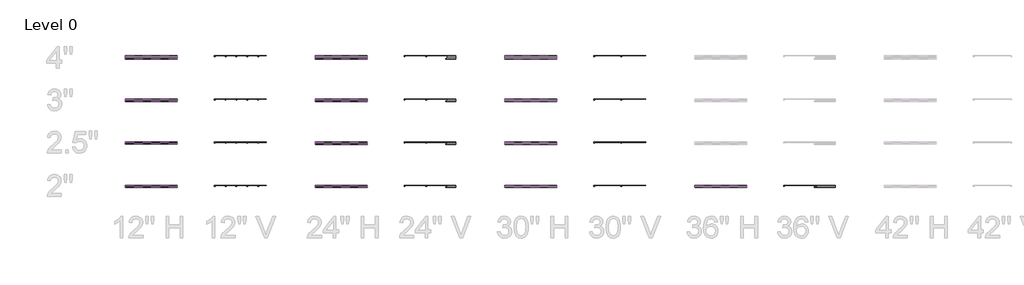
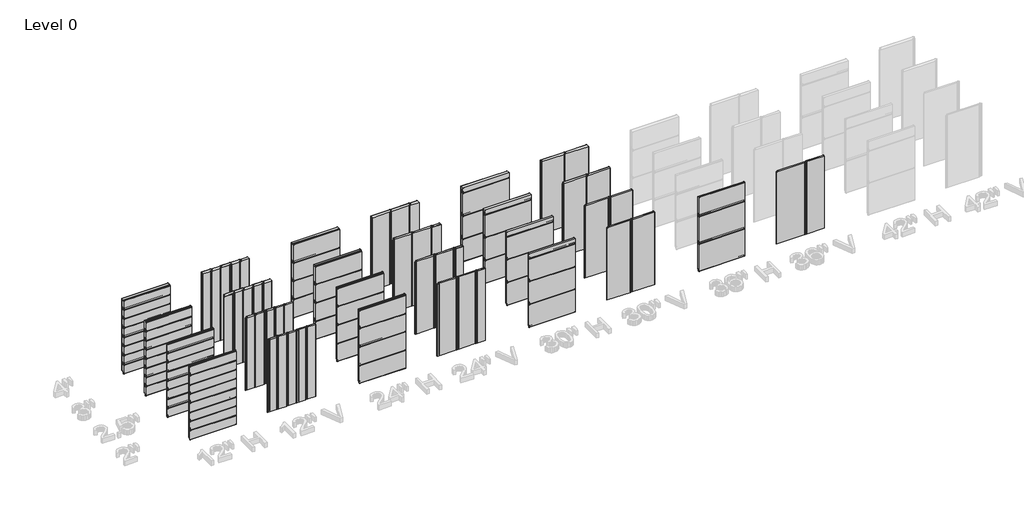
# One storey, part 1 of 5: 109 plates.
"""IFC4 building model written with IfcOpenShell, lengths in millimetres."""

from ifc_helpers import new_model, si_unit, origin, place, context, project, spatial, transform, mapped, element, save
from components import plate_6fed119e, plate_89e84f46, plate_e706f19b, plate_4092c8f2, plate_8f768d0c, plate_a425dd43, plate_01add622, plate_84317ace, plate_703a105f, plate_3ba889b1, plate_5a420305, plate_5605c388, plate_ecee1f56, plate_63ff22c1, plate_52fbea68, plate_90fd1389, plate_66907302, plate_fa82ef35, plate_ab7d0304, plate_7c34b83b, plate_cdfc6812, plate_cf595729, plate_7649aaa1, plate_0d08f7c9, plate_ffddabbd, plate_2691a210, plate_176f2685, plate_24272428, plate_8a14e245, plate_b0db7024, plate_51471944, plate_6d69c0c8, plate_39f8857a, plate_e788a3fa, plate_2abe45d6, plate_93284a91, plate_cbbe2ff7, plate_451096ce, plate_f979c6ee, plate_146f869e, plate_2396645b, plate_240653d1, plate_9375496b, plate_7b326403, plate_11812fda, plate_1d9811eb, plate_a71e47d3, plate_925c1c1f

model = new_model("IFC4")

# Units and contexts
model_context = context("Model", 3, world=origin())
ifc_project = project(units=[si_unit("LENGTHUNIT", "METRE", prefix="MILLI")], contexts=[model_context])

# Site, building, storey
site = spatial("IfcSite", under=ifc_project)
building = spatial("IfcBuilding", under=site)
storey = spatial("IfcBuildingStorey", under=building, Name="Level 0", Elevation=0.0)

# Plates
placement = place(None, origin())
plate_shape = plate_6fed119e(model_context)
element("IfcPlate", 1, ObjectType="KIP-36-DWHR-R19-CP-Hz-F : Hz 2\"", at=placement, inside=storey, context=model_context, shape_type="MappedRepresentation", body=[
    mapped(plate_shape, transform((-13782.7250935, 10881.8207172, 0.0), x_axis=(1.0, 0.0, 0.0), y_axis=(0.0, 1.0, 0.0), z_axis=(0.0, 0.0, 1.0))),
])
element("IfcPlate", 2, ObjectType="KIP-36-DWHR-R19-CP-Hz-F : Hz 2\"", at=placement, inside=storey, context=model_context, shape_type="MappedRepresentation", body=[
    mapped(plate_shape, transform((-13782.7250935, 10881.8207172, 914.4), x_axis=(1.0, 0.0, 0.0), y_axis=(0.0, 1.0, 0.0), z_axis=(0.0, 0.0, 1.0))),
])
plate_2_shape = plate_89e84f46(model_context)
element("IfcPlate", 3, ObjectType="KIP-36-DWHR-R19-CP-Hz-F : Hz 2\"", at=placement, inside=storey, context=model_context, shape_type="MappedRepresentation", body=[
    mapped(plate_2_shape, transform((-13782.7250935, 10881.8207172, 1828.8), x_axis=(1.0, 0.0, 0.0), y_axis=(0.0, 1.0, 0.0), z_axis=(0.0, 0.0, 1.0))),
])
plate_3_shape = plate_e706f19b(model_context)
element("IfcPlate", 4, ObjectType="KIP-30-DWHR-R19-CP-Hz-F : Hz 2\"", at=placement, inside=storey, context=model_context, shape_type="MappedRepresentation", body=[
    mapped(plate_3_shape, transform((-19116.7250935, 10881.8207172, 0.0), x_axis=(1.0, 0.0, 0.0), y_axis=(0.0, 1.0, 0.0), z_axis=(0.0, 0.0, 1.0))),
])
element("IfcPlate", 5, ObjectType="KIP-30-DWHR-R19-CP-Hz-F : Hz 2\"", at=placement, inside=storey, context=model_context, shape_type="MappedRepresentation", body=[
    mapped(plate_3_shape, transform((-19116.7250935, 10881.8207172, 762.0), x_axis=(1.0, 0.0, 0.0), y_axis=(0.0, 1.0, 0.0), z_axis=(0.0, 0.0, 1.0))),
])
element("IfcPlate", 6, ObjectType="KIP-30-DWHR-R19-CP-Hz-F : Hz 2\"", at=placement, inside=storey, context=model_context, shape_type="MappedRepresentation", body=[
    mapped(plate_3_shape, transform((-19116.7250935, 10881.8207172, 1524.0), x_axis=(1.0, 0.0, 0.0), y_axis=(0.0, 1.0, 0.0), z_axis=(0.0, 0.0, 1.0))),
])
plate_4_shape = plate_4092c8f2(model_context)
element("IfcPlate", 7, ObjectType="KIP-30-DWHR-R19-CP-Hz-F : Hz 2\"", at=placement, inside=storey, context=model_context, shape_type="MappedRepresentation", body=[
    mapped(plate_4_shape, transform((-19116.7250935, 10881.8207172, 2286.0), x_axis=(1.0, 0.0, 0.0), y_axis=(0.0, 1.0, 0.0), z_axis=(0.0, 0.0, 1.0))),
])
plate_5_shape = plate_8f768d0c(model_context)
element("IfcPlate", 8, ObjectType="KIP-24-DWHR-R19-CP-Hz-F : Hz 2\"", at=placement, inside=storey, context=model_context, shape_type="MappedRepresentation", body=[
    mapped(plate_5_shape, transform((-24450.7250935, 10881.8207172, 0.0), x_axis=(1.0, 0.0, 0.0), y_axis=(0.0, 1.0, 0.0), z_axis=(0.0, 0.0, 1.0))),
])
element("IfcPlate", 9, ObjectType="KIP-24-DWHR-R19-CP-Hz-F : Hz 2\"", at=placement, inside=storey, context=model_context, shape_type="MappedRepresentation", body=[
    mapped(plate_5_shape, transform((-24450.7250935, 10881.8207172, 609.6), x_axis=(1.0, 0.0, 0.0), y_axis=(0.0, 1.0, 0.0), z_axis=(0.0, 0.0, 1.0))),
])
element("IfcPlate", 10, ObjectType="KIP-24-DWHR-R19-CP-Hz-F : Hz 2\"", at=placement, inside=storey, context=model_context, shape_type="MappedRepresentation", body=[
    mapped(plate_5_shape, transform((-24450.7250935, 10881.8207172, 1219.2), x_axis=(1.0, 0.0, 0.0), y_axis=(0.0, 1.0, 0.0), z_axis=(0.0, 0.0, 1.0))),
])
plate_6_shape = plate_a425dd43(model_context)
element("IfcPlate", 11, ObjectType="KIP-24-DWHR-R19-CP-Hz-F : Hz 2\"", at=placement, inside=storey, context=model_context, shape_type="MappedRepresentation", body=[
    mapped(plate_6_shape, transform((-24450.7250935, 10881.8207172, 1828.8), x_axis=(1.0, 0.0, 0.0), y_axis=(0.0, 1.0, 0.0), z_axis=(0.0, 0.0, 1.0))),
])
plate_7_shape = plate_01add622(model_context)
element("IfcPlate", 12, ObjectType="KIP-12-DWHR-R19-CP-Hz-F : Hz 2\"", at=placement, inside=storey, context=model_context, shape_type="MappedRepresentation", body=[
    mapped(plate_7_shape, transform((-29784.7250935, 10881.8207172, 0.0), x_axis=(1.0, 0.0, 0.0), y_axis=(0.0, 1.0, 0.0), z_axis=(0.0, 0.0, 1.0))),
])
element("IfcPlate", 13, ObjectType="KIP-12-DWHR-R19-CP-Hz-F : Hz 2\"", at=placement, inside=storey, context=model_context, shape_type="MappedRepresentation", body=[
    mapped(plate_7_shape, transform((-29784.7250935, 10881.8207172, 304.8), x_axis=(1.0, 0.0, 0.0), y_axis=(0.0, 1.0, 0.0), z_axis=(0.0, 0.0, 1.0))),
])
element("IfcPlate", 14, ObjectType="KIP-12-DWHR-R19-CP-Hz-F : Hz 2\"", at=placement, inside=storey, context=model_context, shape_type="MappedRepresentation", body=[
    mapped(plate_7_shape, transform((-29784.7250935, 10881.8207172, 609.6), x_axis=(1.0, 0.0, 0.0), y_axis=(0.0, 1.0, 0.0), z_axis=(0.0, 0.0, 1.0))),
])
element("IfcPlate", 15, ObjectType="KIP-12-DWHR-R19-CP-Hz-F : Hz 2\"", at=placement, inside=storey, context=model_context, shape_type="MappedRepresentation", body=[
    mapped(plate_7_shape, transform((-29784.7250935, 10881.8207172, 914.4), x_axis=(1.0, 0.0, 0.0), y_axis=(0.0, 1.0, 0.0), z_axis=(0.0, 0.0, 1.0))),
])
element("IfcPlate", 16, ObjectType="KIP-12-DWHR-R19-CP-Hz-F : Hz 2\"", at=placement, inside=storey, context=model_context, shape_type="MappedRepresentation", body=[
    mapped(plate_7_shape, transform((-29784.7250935, 10881.8207172, 1219.2), x_axis=(1.0, 0.0, 0.0), y_axis=(0.0, 1.0, 0.0), z_axis=(0.0, 0.0, 1.0))),
])
element("IfcPlate", 17, ObjectType="KIP-12-DWHR-R19-CP-Hz-F : Hz 2\"", at=placement, inside=storey, context=model_context, shape_type="MappedRepresentation", body=[
    mapped(plate_7_shape, transform((-29784.7250935, 10881.8207172, 1524.0), x_axis=(1.0, 0.0, 0.0), y_axis=(0.0, 1.0, 0.0), z_axis=(0.0, 0.0, 1.0))),
])
element("IfcPlate", 18, ObjectType="KIP-12-DWHR-R19-CP-Hz-F : Hz 2\"", at=placement, inside=storey, context=model_context, shape_type="MappedRepresentation", body=[
    mapped(plate_7_shape, transform((-29784.7250935, 10881.8207172, 1828.8), x_axis=(1.0, 0.0, 0.0), y_axis=(0.0, 1.0, 0.0), z_axis=(0.0, 0.0, 1.0))),
])
plate_8_shape = plate_84317ace(model_context)
element("IfcPlate", 19, ObjectType="KIP-12-DWHR-R19-CP-Hz-F : Hz 2\"", at=placement, inside=storey, context=model_context, shape_type="MappedRepresentation", body=[
    mapped(plate_8_shape, transform((-29784.7250935, 10881.8207172, 2133.6), x_axis=(1.0, 0.0, 0.0), y_axis=(0.0, 1.0, 0.0), z_axis=(0.0, 0.0, 1.0))),
])
plate_9_shape = plate_703a105f(model_context)
element("IfcPlate", 20, ObjectType="KIP-30-DWHR-R19-CP-Hz-F : Hz 2.5\"", at=placement, inside=storey, context=model_context, shape_type="MappedRepresentation", body=[
    mapped(plate_9_shape, transform((-19116.7250935, 12101.0207172, 0.0), x_axis=(1.0, 0.0, 0.0), y_axis=(0.0, 1.0, 0.0), z_axis=(0.0, 0.0, 1.0))),
])
element("IfcPlate", 21, ObjectType="KIP-30-DWHR-R19-CP-Hz-F : Hz 2.5\"", at=placement, inside=storey, context=model_context, shape_type="MappedRepresentation", body=[
    mapped(plate_9_shape, transform((-19116.7250935, 12101.0207172, 762.0), x_axis=(1.0, 0.0, 0.0), y_axis=(0.0, 1.0, 0.0), z_axis=(0.0, 0.0, 1.0))),
])
element("IfcPlate", 22, ObjectType="KIP-30-DWHR-R19-CP-Hz-F : Hz 2.5\"", at=placement, inside=storey, context=model_context, shape_type="MappedRepresentation", body=[
    mapped(plate_9_shape, transform((-19116.7250935, 12101.0207172, 1524.0), x_axis=(1.0, 0.0, 0.0), y_axis=(0.0, 1.0, 0.0), z_axis=(0.0, 0.0, 1.0))),
])
plate_10_shape = plate_3ba889b1(model_context)
element("IfcPlate", 23, ObjectType="KIP-30-DWHR-R19-CP-Hz-F : Hz 2.5\"", at=placement, inside=storey, context=model_context, shape_type="MappedRepresentation", body=[
    mapped(plate_10_shape, transform((-19116.7250935, 12101.0207172, 2286.0), x_axis=(1.0, 0.0, 0.0), y_axis=(0.0, 1.0, 0.0), z_axis=(0.0, 0.0, 1.0))),
])
plate_11_shape = plate_5a420305(model_context)
element("IfcPlate", 24, ObjectType="KIP-24-DWHR-R19-CP-Hz-F : Hz 2.5\"", at=placement, inside=storey, context=model_context, shape_type="MappedRepresentation", body=[
    mapped(plate_11_shape, transform((-24450.7250935, 12101.0207172, 0.0), x_axis=(1.0, 0.0, 0.0), y_axis=(0.0, 1.0, 0.0), z_axis=(0.0, 0.0, 1.0))),
])
element("IfcPlate", 25, ObjectType="KIP-24-DWHR-R19-CP-Hz-F : Hz 2.5\"", at=placement, inside=storey, context=model_context, shape_type="MappedRepresentation", body=[
    mapped(plate_11_shape, transform((-24450.7250935, 12101.0207172, 609.6), x_axis=(1.0, 0.0, 0.0), y_axis=(0.0, 1.0, 0.0), z_axis=(0.0, 0.0, 1.0))),
])
element("IfcPlate", 26, ObjectType="KIP-24-DWHR-R19-CP-Hz-F : Hz 2.5\"", at=placement, inside=storey, context=model_context, shape_type="MappedRepresentation", body=[
    mapped(plate_11_shape, transform((-24450.7250935, 12101.0207172, 1219.2), x_axis=(1.0, 0.0, 0.0), y_axis=(0.0, 1.0, 0.0), z_axis=(0.0, 0.0, 1.0))),
])
plate_12_shape = plate_5605c388(model_context)
element("IfcPlate", 27, ObjectType="KIP-24-DWHR-R19-CP-Hz-F : Hz 2.5\"", at=placement, inside=storey, context=model_context, shape_type="MappedRepresentation", body=[
    mapped(plate_12_shape, transform((-24450.7250935, 12101.0207172, 1828.8), x_axis=(1.0, 0.0, 0.0), y_axis=(0.0, 1.0, 0.0), z_axis=(0.0, 0.0, 1.0))),
])
element("IfcPlate", 28, ObjectType="KIP-12-DWHR-R19-CP-Hz-F : Hz 2.5\"", at=placement, inside=storey, context=model_context, shape_type="MappedRepresentation", body=[
    mapped(plate_7_shape, transform((-29784.7250935, 12101.0207172, 0.0), x_axis=(1.0, 0.0, 0.0), y_axis=(0.0, 1.0, 0.0), z_axis=(0.0, 0.0, 1.0))),
])
element("IfcPlate", 29, ObjectType="KIP-12-DWHR-R19-CP-Hz-F : Hz 2.5\"", at=placement, inside=storey, context=model_context, shape_type="MappedRepresentation", body=[
    mapped(plate_7_shape, transform((-29784.7250935, 12101.0207172, 304.8), x_axis=(1.0, 0.0, 0.0), y_axis=(0.0, 1.0, 0.0), z_axis=(0.0, 0.0, 1.0))),
])
element("IfcPlate", 30, ObjectType="KIP-12-DWHR-R19-CP-Hz-F : Hz 2.5\"", at=placement, inside=storey, context=model_context, shape_type="MappedRepresentation", body=[
    mapped(plate_7_shape, transform((-29784.7250935, 12101.0207172, 609.6), x_axis=(1.0, 0.0, 0.0), y_axis=(0.0, 1.0, 0.0), z_axis=(0.0, 0.0, 1.0))),
])
element("IfcPlate", 31, ObjectType="KIP-12-DWHR-R19-CP-Hz-F : Hz 2.5\"", at=placement, inside=storey, context=model_context, shape_type="MappedRepresentation", body=[
    mapped(plate_7_shape, transform((-29784.7250935, 12101.0207172, 914.4), x_axis=(1.0, 0.0, 0.0), y_axis=(0.0, 1.0, 0.0), z_axis=(0.0, 0.0, 1.0))),
])
element("IfcPlate", 32, ObjectType="KIP-12-DWHR-R19-CP-Hz-F : Hz 2.5\"", at=placement, inside=storey, context=model_context, shape_type="MappedRepresentation", body=[
    mapped(plate_7_shape, transform((-29784.7250935, 12101.0207172, 1219.2), x_axis=(1.0, 0.0, 0.0), y_axis=(0.0, 1.0, 0.0), z_axis=(0.0, 0.0, 1.0))),
])
element("IfcPlate", 33, ObjectType="KIP-12-DWHR-R19-CP-Hz-F : Hz 2.5\"", at=placement, inside=storey, context=model_context, shape_type="MappedRepresentation", body=[
    mapped(plate_7_shape, transform((-29784.7250935, 12101.0207172, 1524.0), x_axis=(1.0, 0.0, 0.0), y_axis=(0.0, 1.0, 0.0), z_axis=(0.0, 0.0, 1.0))),
])
element("IfcPlate", 34, ObjectType="KIP-12-DWHR-R19-CP-Hz-F : Hz 2.5\"", at=placement, inside=storey, context=model_context, shape_type="MappedRepresentation", body=[
    mapped(plate_7_shape, transform((-29784.7250935, 12101.0207172, 1828.8), x_axis=(1.0, 0.0, 0.0), y_axis=(0.0, 1.0, 0.0), z_axis=(0.0, 0.0, 1.0))),
])
element("IfcPlate", 35, ObjectType="KIP-12-DWHR-R19-CP-Hz-F : Hz 2.5\"", at=placement, inside=storey, context=model_context, shape_type="MappedRepresentation", body=[
    mapped(plate_8_shape, transform((-29784.7250935, 12101.0207172, 2133.6), x_axis=(1.0, 0.0, 0.0), y_axis=(0.0, 1.0, 0.0), z_axis=(0.0, 0.0, 1.0))),
])
plate_13_shape = plate_ecee1f56(model_context)
element("IfcPlate", 36, ObjectType="KIP-30-DWHR-R19-CP-Hz-F : Hz 3\"", at=placement, inside=storey, context=model_context, shape_type="MappedRepresentation", body=[
    mapped(plate_13_shape, transform((-19116.7250935, 13320.2207172, 0.0), x_axis=(1.0, 0.0, 0.0), y_axis=(0.0, 1.0, 0.0), z_axis=(0.0, 0.0, 1.0))),
])
element("IfcPlate", 37, ObjectType="KIP-30-DWHR-R19-CP-Hz-F : Hz 3\"", at=placement, inside=storey, context=model_context, shape_type="MappedRepresentation", body=[
    mapped(plate_13_shape, transform((-19116.7250935, 13320.2207172, 762.0), x_axis=(1.0, 0.0, 0.0), y_axis=(0.0, 1.0, 0.0), z_axis=(0.0, 0.0, 1.0))),
])
element("IfcPlate", 38, ObjectType="KIP-30-DWHR-R19-CP-Hz-F : Hz 3\"", at=placement, inside=storey, context=model_context, shape_type="MappedRepresentation", body=[
    mapped(plate_13_shape, transform((-19116.7250935, 13320.2207172, 1524.0), x_axis=(1.0, 0.0, 0.0), y_axis=(0.0, 1.0, 0.0), z_axis=(0.0, 0.0, 1.0))),
])
plate_14_shape = plate_63ff22c1(model_context)
element("IfcPlate", 39, ObjectType="KIP-30-DWHR-R19-CP-Hz-F : Hz 3\"", at=placement, inside=storey, context=model_context, shape_type="MappedRepresentation", body=[
    mapped(plate_14_shape, transform((-19116.7250935, 13320.2207172, 2286.0), x_axis=(1.0, 0.0, 0.0), y_axis=(0.0, 1.0, 0.0), z_axis=(0.0, 0.0, 1.0))),
])
plate_15_shape = plate_52fbea68(model_context)
element("IfcPlate", 40, ObjectType="KIP-24-DWHR-R19-CP-Hz-F : Hz 3\"", at=placement, inside=storey, context=model_context, shape_type="MappedRepresentation", body=[
    mapped(plate_15_shape, transform((-24450.7250935, 13320.2207172, 0.0), x_axis=(1.0, 0.0, 0.0), y_axis=(0.0, 1.0, 0.0), z_axis=(0.0, 0.0, 1.0))),
])
element("IfcPlate", 41, ObjectType="KIP-24-DWHR-R19-CP-Hz-F : Hz 3\"", at=placement, inside=storey, context=model_context, shape_type="MappedRepresentation", body=[
    mapped(plate_15_shape, transform((-24450.7250935, 13320.2207172, 609.6), x_axis=(1.0, 0.0, 0.0), y_axis=(0.0, 1.0, 0.0), z_axis=(0.0, 0.0, 1.0))),
])
element("IfcPlate", 42, ObjectType="KIP-24-DWHR-R19-CP-Hz-F : Hz 3\"", at=placement, inside=storey, context=model_context, shape_type="MappedRepresentation", body=[
    mapped(plate_15_shape, transform((-24450.7250935, 13320.2207172, 1219.2), x_axis=(1.0, 0.0, 0.0), y_axis=(0.0, 1.0, 0.0), z_axis=(0.0, 0.0, 1.0))),
])
plate_16_shape = plate_90fd1389(model_context)
element("IfcPlate", 43, ObjectType="KIP-24-DWHR-R19-CP-Hz-F : Hz 3\"", at=placement, inside=storey, context=model_context, shape_type="MappedRepresentation", body=[
    mapped(plate_16_shape, transform((-24450.7250935, 13320.2207172, 1828.8), x_axis=(1.0, 0.0, 0.0), y_axis=(0.0, 1.0, 0.0), z_axis=(0.0, 0.0, 1.0))),
])
plate_17_shape = plate_66907302(model_context)
element("IfcPlate", 44, ObjectType="KIP-12-DWHR-R19-CP-Hz-F : Hz 3\"", at=placement, inside=storey, context=model_context, shape_type="MappedRepresentation", body=[
    mapped(plate_17_shape, transform((-29784.7250935, 13320.2207172, 0.0), x_axis=(1.0, 0.0, 0.0), y_axis=(0.0, 1.0, 0.0), z_axis=(0.0, 0.0, 1.0))),
])
element("IfcPlate", 45, ObjectType="KIP-12-DWHR-R19-CP-Hz-F : Hz 3\"", at=placement, inside=storey, context=model_context, shape_type="MappedRepresentation", body=[
    mapped(plate_17_shape, transform((-29784.7250935, 13320.2207172, 304.8), x_axis=(1.0, 0.0, 0.0), y_axis=(0.0, 1.0, 0.0), z_axis=(0.0, 0.0, 1.0))),
])
element("IfcPlate", 46, ObjectType="KIP-12-DWHR-R19-CP-Hz-F : Hz 3\"", at=placement, inside=storey, context=model_context, shape_type="MappedRepresentation", body=[
    mapped(plate_17_shape, transform((-29784.7250935, 13320.2207172, 609.6), x_axis=(1.0, 0.0, 0.0), y_axis=(0.0, 1.0, 0.0), z_axis=(0.0, 0.0, 1.0))),
])
element("IfcPlate", 47, ObjectType="KIP-12-DWHR-R19-CP-Hz-F : Hz 3\"", at=placement, inside=storey, context=model_context, shape_type="MappedRepresentation", body=[
    mapped(plate_17_shape, transform((-29784.7250935, 13320.2207172, 914.4), x_axis=(1.0, 0.0, 0.0), y_axis=(0.0, 1.0, 0.0), z_axis=(0.0, 0.0, 1.0))),
])
element("IfcPlate", 48, ObjectType="KIP-12-DWHR-R19-CP-Hz-F : Hz 3\"", at=placement, inside=storey, context=model_context, shape_type="MappedRepresentation", body=[
    mapped(plate_17_shape, transform((-29784.7250935, 13320.2207172, 1219.2), x_axis=(1.0, 0.0, 0.0), y_axis=(0.0, 1.0, 0.0), z_axis=(0.0, 0.0, 1.0))),
])
element("IfcPlate", 49, ObjectType="KIP-12-DWHR-R19-CP-Hz-F : Hz 3\"", at=placement, inside=storey, context=model_context, shape_type="MappedRepresentation", body=[
    mapped(plate_17_shape, transform((-29784.7250935, 13320.2207172, 1524.0), x_axis=(1.0, 0.0, 0.0), y_axis=(0.0, 1.0, 0.0), z_axis=(0.0, 0.0, 1.0))),
])
element("IfcPlate", 50, ObjectType="KIP-12-DWHR-R19-CP-Hz-F : Hz 3\"", at=placement, inside=storey, context=model_context, shape_type="MappedRepresentation", body=[
    mapped(plate_17_shape, transform((-29784.7250935, 13320.2207172, 1828.8), x_axis=(1.0, 0.0, 0.0), y_axis=(0.0, 1.0, 0.0), z_axis=(0.0, 0.0, 1.0))),
])
plate_18_shape = plate_fa82ef35(model_context)
element("IfcPlate", 51, ObjectType="KIP-12-DWHR-R19-CP-Hz-F : Hz 3\"", at=placement, inside=storey, context=model_context, shape_type="MappedRepresentation", body=[
    mapped(plate_18_shape, transform((-29784.7250935, 13320.2207172, 2133.6), x_axis=(1.0, 0.0, 0.0), y_axis=(0.0, 1.0, 0.0), z_axis=(0.0, 0.0, 1.0))),
])
plate_19_shape = plate_ab7d0304(model_context)
element("IfcPlate", 52, ObjectType="KIP-30-DWHR-R19-CP-Hz-F : Hz 4\"", at=placement, inside=storey, context=model_context, shape_type="MappedRepresentation", body=[
    mapped(plate_19_shape, transform((-19116.7250935, 14539.4207172, 0.0), x_axis=(1.0, 0.0, 0.0), y_axis=(0.0, 1.0, 0.0), z_axis=(0.0, 0.0, 1.0))),
])
element("IfcPlate", 53, ObjectType="KIP-30-DWHR-R19-CP-Hz-F : Hz 4\"", at=placement, inside=storey, context=model_context, shape_type="MappedRepresentation", body=[
    mapped(plate_19_shape, transform((-19116.7250935, 14539.4207172, 762.0), x_axis=(1.0, 0.0, 0.0), y_axis=(0.0, 1.0, 0.0), z_axis=(0.0, 0.0, 1.0))),
])
element("IfcPlate", 54, ObjectType="KIP-30-DWHR-R19-CP-Hz-F : Hz 4\"", at=placement, inside=storey, context=model_context, shape_type="MappedRepresentation", body=[
    mapped(plate_19_shape, transform((-19116.7250935, 14539.4207172, 1524.0), x_axis=(1.0, 0.0, 0.0), y_axis=(0.0, 1.0, 0.0), z_axis=(0.0, 0.0, 1.0))),
])
plate_20_shape = plate_7c34b83b(model_context)
element("IfcPlate", 55, ObjectType="KIP-30-DWHR-R19-CP-Hz-F : Hz 4\"", at=placement, inside=storey, context=model_context, shape_type="MappedRepresentation", body=[
    mapped(plate_20_shape, transform((-19116.7250935, 14539.4207172, 2286.0), x_axis=(1.0, 0.0, 0.0), y_axis=(0.0, 1.0, 0.0), z_axis=(0.0, 0.0, 1.0))),
])
plate_21_shape = plate_cdfc6812(model_context)
element("IfcPlate", 56, ObjectType="KIP-24-DWHR-R19-CP-Hz-F : Hz 4\"", at=placement, inside=storey, context=model_context, shape_type="MappedRepresentation", body=[
    mapped(plate_21_shape, transform((-24450.7250935, 14539.4207172, 0.0), x_axis=(1.0, 0.0, 0.0), y_axis=(0.0, 1.0, 0.0), z_axis=(0.0, 0.0, 1.0))),
])
element("IfcPlate", 57, ObjectType="KIP-24-DWHR-R19-CP-Hz-F : Hz 4\"", at=placement, inside=storey, context=model_context, shape_type="MappedRepresentation", body=[
    mapped(plate_21_shape, transform((-24450.7250935, 14539.4207172, 609.6), x_axis=(1.0, 0.0, 0.0), y_axis=(0.0, 1.0, 0.0), z_axis=(0.0, 0.0, 1.0))),
])
element("IfcPlate", 58, ObjectType="KIP-24-DWHR-R19-CP-Hz-F : Hz 4\"", at=placement, inside=storey, context=model_context, shape_type="MappedRepresentation", body=[
    mapped(plate_21_shape, transform((-24450.7250935, 14539.4207172, 1219.2), x_axis=(1.0, 0.0, 0.0), y_axis=(0.0, 1.0, 0.0), z_axis=(0.0, 0.0, 1.0))),
])
plate_22_shape = plate_cf595729(model_context)
element("IfcPlate", 59, ObjectType="KIP-24-DWHR-R19-CP-Hz-F : Hz 4\"", at=placement, inside=storey, context=model_context, shape_type="MappedRepresentation", body=[
    mapped(plate_22_shape, transform((-24450.7250935, 14539.4207172, 1828.8), x_axis=(1.0, 0.0, 0.0), y_axis=(0.0, 1.0, 0.0), z_axis=(0.0, 0.0, 1.0))),
])
plate_23_shape = plate_7649aaa1(model_context)
element("IfcPlate", 60, ObjectType="KIP-12-DWHR-R19-CP-Hz-F : Hz 4\"", at=placement, inside=storey, context=model_context, shape_type="MappedRepresentation", body=[
    mapped(plate_23_shape, transform((-29784.7250935, 14539.4207172, 0.0), x_axis=(1.0, 0.0, 0.0), y_axis=(0.0, 1.0, 0.0), z_axis=(0.0, 0.0, 1.0))),
])
element("IfcPlate", 61, ObjectType="KIP-12-DWHR-R19-CP-Hz-F : Hz 4\"", at=placement, inside=storey, context=model_context, shape_type="MappedRepresentation", body=[
    mapped(plate_23_shape, transform((-29784.7250935, 14539.4207172, 304.8), x_axis=(1.0, 0.0, 0.0), y_axis=(0.0, 1.0, 0.0), z_axis=(0.0, 0.0, 1.0))),
])
element("IfcPlate", 62, ObjectType="KIP-12-DWHR-R19-CP-Hz-F : Hz 4\"", at=placement, inside=storey, context=model_context, shape_type="MappedRepresentation", body=[
    mapped(plate_23_shape, transform((-29784.7250935, 14539.4207172, 609.6), x_axis=(1.0, 0.0, 0.0), y_axis=(0.0, 1.0, 0.0), z_axis=(0.0, 0.0, 1.0))),
])
element("IfcPlate", 63, ObjectType="KIP-12-DWHR-R19-CP-Hz-F : Hz 4\"", at=placement, inside=storey, context=model_context, shape_type="MappedRepresentation", body=[
    mapped(plate_23_shape, transform((-29784.7250935, 14539.4207172, 914.4), x_axis=(1.0, 0.0, 0.0), y_axis=(0.0, 1.0, 0.0), z_axis=(0.0, 0.0, 1.0))),
])
element("IfcPlate", 64, ObjectType="KIP-12-DWHR-R19-CP-Hz-F : Hz 4\"", at=placement, inside=storey, context=model_context, shape_type="MappedRepresentation", body=[
    mapped(plate_23_shape, transform((-29784.7250935, 14539.4207172, 1219.2), x_axis=(1.0, 0.0, 0.0), y_axis=(0.0, 1.0, 0.0), z_axis=(0.0, 0.0, 1.0))),
])
element("IfcPlate", 65, ObjectType="KIP-12-DWHR-R19-CP-Hz-F : Hz 4\"", at=placement, inside=storey, context=model_context, shape_type="MappedRepresentation", body=[
    mapped(plate_23_shape, transform((-29784.7250935, 14539.4207172, 1524.0), x_axis=(1.0, 0.0, 0.0), y_axis=(0.0, 1.0, 0.0), z_axis=(0.0, 0.0, 1.0))),
])
element("IfcPlate", 66, ObjectType="KIP-12-DWHR-R19-CP-Hz-F : Hz 4\"", at=placement, inside=storey, context=model_context, shape_type="MappedRepresentation", body=[
    mapped(plate_23_shape, transform((-29784.7250935, 14539.4207172, 1828.8), x_axis=(1.0, 0.0, 0.0), y_axis=(0.0, 1.0, 0.0), z_axis=(0.0, 0.0, 1.0))),
])
plate_24_shape = plate_0d08f7c9(model_context)
element("IfcPlate", 67, ObjectType="KIP-12-DWHR-R19-CP-Hz-F : Hz 4\"", at=placement, inside=storey, context=model_context, shape_type="MappedRepresentation", body=[
    mapped(plate_24_shape, transform((-29784.7250935, 14539.4207172, 2133.6), x_axis=(1.0, 0.0, 0.0), y_axis=(0.0, 1.0, 0.0), z_axis=(0.0, 0.0, 1.0))),
])
plate_25_shape = plate_ffddabbd(model_context)
element("IfcPlate", 68, ObjectType="KIP-36-DWHR-R19-CP-Vt-F : Vt 2\"", at=placement, inside=storey, context=model_context, shape_type="MappedRepresentation", body=[
    mapped(plate_25_shape, transform((-11555.7413834, 10881.8207172, 0.0), x_axis=(1.0, 0.0, 0.0), y_axis=(0.0, 1.0, 0.0), z_axis=(0.0, 0.0, 1.0))),
])
plate_26_shape = plate_2691a210(model_context)
element("IfcPlate", 69, ObjectType="KIP-36-DWHR-R19-CP-Vt-F : Vt 2\"", at=placement, inside=storey, context=model_context, shape_type="MappedRepresentation", body=[
    mapped(plate_26_shape, transform((-10825.7413834, 10881.8207172, 0.0), x_axis=(1.0, 0.0, 0.0), y_axis=(0.0, 1.0, 0.0), z_axis=(0.0, 0.0, 1.0))),
])
plate_27_shape = plate_176f2685(model_context)
element("IfcPlate", 70, ObjectType="KIP-30-DWHR-R19-CP-Vt-F : Vt 2\"", at=placement, inside=storey, context=model_context, shape_type="MappedRepresentation", body=[
    mapped(plate_27_shape, transform((-16965.9413834, 10881.8207172, 0.0), x_axis=(1.0, 0.0, 0.0), y_axis=(0.0, 1.0, 0.0), z_axis=(0.0, 0.0, 1.0))),
])
plate_28_shape = plate_24272428(model_context)
element("IfcPlate", 71, ObjectType="KIP-30-DWHR-R19-CP-Vt-F : Vt 2\"", at=placement, inside=storey, context=model_context, shape_type="MappedRepresentation", body=[
    mapped(plate_28_shape, transform((-16235.9413834, 10881.8207172, 0.0), x_axis=(1.0, 0.0, 0.0), y_axis=(0.0, 1.0, 0.0), z_axis=(0.0, 0.0, 1.0))),
])
plate_29_shape = plate_8a14e245(model_context)
element("IfcPlate", 72, ObjectType="KIP-24-DWHR-R19-CP-Vt-F : Vt 2\"", at=placement, inside=storey, context=model_context, shape_type="MappedRepresentation", body=[
    mapped(plate_29_shape, transform((-22376.1413834, 10881.8207172, 0.0), x_axis=(1.0, 0.0, 0.0), y_axis=(0.0, 1.0, 0.0), z_axis=(0.0, 0.0, 1.0))),
])
element("IfcPlate", 73, ObjectType="KIP-24-DWHR-R19-CP-Vt-F : Vt 2\"", at=placement, inside=storey, context=model_context, shape_type="MappedRepresentation", body=[
    mapped(plate_29_shape, transform((-21766.5413833, 10881.8207172, 0.0), x_axis=(1.0, 0.0, 0.0), y_axis=(0.0, 1.0, 0.0), z_axis=(0.0, 0.0, 1.0))),
])
plate_30_shape = plate_b0db7024(model_context)
element("IfcPlate", 74, ObjectType="KIP-24-DWHR-R19-CP-Vt-F : Vt 2\"", at=placement, inside=storey, context=model_context, shape_type="MappedRepresentation", body=[
    mapped(plate_30_shape, transform((-21341.3413834, 10881.8207172, 0.0), x_axis=(1.0, 0.0, 0.0), y_axis=(0.0, 1.0, 0.0), z_axis=(0.0, 0.0, 1.0))),
])
plate_31_shape = plate_51471944(model_context)
element("IfcPlate", 75, ObjectType="KIP-12-DWHR-R19-CP-Vt-F : Vt 2\"", at=placement, inside=storey, context=model_context, shape_type="MappedRepresentation", body=[
    mapped(plate_31_shape, transform((-27862.5413834, 10881.8207172, 0.0), x_axis=(1.0, 0.0, 0.0), y_axis=(0.0, 1.0, 0.0), z_axis=(0.0, 0.0, 1.0))),
])
element("IfcPlate", 76, ObjectType="KIP-12-DWHR-R19-CP-Vt-F : Vt 2\"", at=placement, inside=storey, context=model_context, shape_type="MappedRepresentation", body=[
    mapped(plate_31_shape, transform((-26948.1413833, 10881.8207172, 0.0), x_axis=(1.0, 0.0, 0.0), y_axis=(0.0, 1.0, 0.0), z_axis=(0.0, 0.0, 1.0))),
])
element("IfcPlate", 77, ObjectType="KIP-12-DWHR-R19-CP-Vt-F : Vt 2\"", at=placement, inside=storey, context=model_context, shape_type="MappedRepresentation", body=[
    mapped(plate_31_shape, transform((-27252.9413833, 10881.8207172, 0.0), x_axis=(1.0, 0.0, 0.0), y_axis=(0.0, 1.0, 0.0), z_axis=(0.0, 0.0, 1.0))),
])
element("IfcPlate", 78, ObjectType="KIP-12-DWHR-R19-CP-Vt-F : Vt 2\"", at=placement, inside=storey, context=model_context, shape_type="MappedRepresentation", body=[
    mapped(plate_31_shape, transform((-27557.7413833, 10881.8207172, 0.0), x_axis=(1.0, 0.0, 0.0), y_axis=(0.0, 1.0, 0.0), z_axis=(0.0, 0.0, 1.0))),
])
plate_32_shape = plate_6d69c0c8(model_context)
element("IfcPlate", 79, ObjectType="KIP-12-DWHR-R19-CP-Vt-F : Vt 2\"", at=placement, inside=storey, context=model_context, shape_type="MappedRepresentation", body=[
    mapped(plate_32_shape, transform((-26675.3413834, 10881.8207172, 0.0), x_axis=(1.0, 0.0, 0.0), y_axis=(0.0, 1.0, 0.0), z_axis=(0.0, 0.0, 1.0))),
])
plate_33_shape = plate_39f8857a(model_context)
element("IfcPlate", 80, ObjectType="KIP-30-DWHR-R19-CP-Vt-F : Vt 2.5\"", at=placement, inside=storey, context=model_context, shape_type="MappedRepresentation", body=[
    mapped(plate_33_shape, transform((-16965.9413834, 12101.0207172, 0.0), x_axis=(1.0, 0.0, 0.0), y_axis=(0.0, 1.0, 0.0), z_axis=(0.0, 0.0, 1.0))),
])
plate_34_shape = plate_e788a3fa(model_context)
element("IfcPlate", 81, ObjectType="KIP-30-DWHR-R19-CP-Vt-F : Vt 2.5\"", at=placement, inside=storey, context=model_context, shape_type="MappedRepresentation", body=[
    mapped(plate_34_shape, transform((-16235.9413834, 12101.0207172, 0.0), x_axis=(1.0, 0.0, 0.0), y_axis=(0.0, 1.0, 0.0), z_axis=(0.0, 0.0, 1.0))),
])
plate_35_shape = plate_2abe45d6(model_context)
element("IfcPlate", 82, ObjectType="KIP-24-DWHR-R19-CP-Vt-F : Vt 2.5\"", at=placement, inside=storey, context=model_context, shape_type="MappedRepresentation", body=[
    mapped(plate_35_shape, transform((-22376.1413834, 12101.0207172, 0.0), x_axis=(1.0, 0.0, 0.0), y_axis=(0.0, 1.0, 0.0), z_axis=(0.0, 0.0, 1.0))),
])
element("IfcPlate", 83, ObjectType="KIP-24-DWHR-R19-CP-Vt-F : Vt 2.5\"", at=placement, inside=storey, context=model_context, shape_type="MappedRepresentation", body=[
    mapped(plate_35_shape, transform((-21766.5413833, 12101.0207172, 0.0), x_axis=(1.0, 0.0, 0.0), y_axis=(0.0, 1.0, 0.0), z_axis=(0.0, 0.0, 1.0))),
])
plate_36_shape = plate_93284a91(model_context)
element("IfcPlate", 84, ObjectType="KIP-24-DWHR-R19-CP-Vt-F : Vt 2.5\"", at=placement, inside=storey, context=model_context, shape_type="MappedRepresentation", body=[
    mapped(plate_36_shape, transform((-21341.3413834, 12101.0207172, 0.0), x_axis=(1.0, 0.0, 0.0), y_axis=(0.0, 1.0, 0.0), z_axis=(0.0, 0.0, 1.0))),
])
plate_37_shape = plate_cbbe2ff7(model_context)
element("IfcPlate", 85, ObjectType="KIP-12-DWHR-R19-CP-Vt-F : Vt 2.5\"", at=placement, inside=storey, context=model_context, shape_type="MappedRepresentation", body=[
    mapped(plate_37_shape, transform((-27862.5413834, 12101.0207172, 0.0), x_axis=(1.0, 0.0, 0.0), y_axis=(0.0, 1.0, 0.0), z_axis=(0.0, 0.0, 1.0))),
])
element("IfcPlate", 86, ObjectType="KIP-12-DWHR-R19-CP-Vt-F : Vt 2.5\"", at=placement, inside=storey, context=model_context, shape_type="MappedRepresentation", body=[
    mapped(plate_37_shape, transform((-26948.1413833, 12101.0207172, 0.0), x_axis=(1.0, 0.0, 0.0), y_axis=(0.0, 1.0, 0.0), z_axis=(0.0, 0.0, 1.0))),
])
element("IfcPlate", 87, ObjectType="KIP-12-DWHR-R19-CP-Vt-F : Vt 2.5\"", at=placement, inside=storey, context=model_context, shape_type="MappedRepresentation", body=[
    mapped(plate_37_shape, transform((-27252.9413833, 12101.0207172, 0.0), x_axis=(1.0, 0.0, 0.0), y_axis=(0.0, 1.0, 0.0), z_axis=(0.0, 0.0, 1.0))),
])
element("IfcPlate", 88, ObjectType="KIP-12-DWHR-R19-CP-Vt-F : Vt 2.5\"", at=placement, inside=storey, context=model_context, shape_type="MappedRepresentation", body=[
    mapped(plate_37_shape, transform((-27557.7413833, 12101.0207172, 0.0), x_axis=(1.0, 0.0, 0.0), y_axis=(0.0, 1.0, 0.0), z_axis=(0.0, 0.0, 1.0))),
])
plate_38_shape = plate_451096ce(model_context)
element("IfcPlate", 89, ObjectType="KIP-12-DWHR-R19-CP-Vt-F : Vt 2.5\"", at=placement, inside=storey, context=model_context, shape_type="MappedRepresentation", body=[
    mapped(plate_38_shape, transform((-26675.3413834, 12101.0207172, 0.0), x_axis=(1.0, 0.0, 0.0), y_axis=(0.0, 1.0, 0.0), z_axis=(0.0, 0.0, 1.0))),
])
plate_39_shape = plate_f979c6ee(model_context)
element("IfcPlate", 90, ObjectType="KIP-30-DWHR-R19-CP-Vt-F : Vt 3\"", at=placement, inside=storey, context=model_context, shape_type="MappedRepresentation", body=[
    mapped(plate_39_shape, transform((-16965.9413834, 13320.2207172, 0.0), x_axis=(1.0, 0.0, 0.0), y_axis=(0.0, 1.0, 0.0), z_axis=(0.0, 0.0, 1.0))),
])
plate_40_shape = plate_146f869e(model_context)
element("IfcPlate", 91, ObjectType="KIP-30-DWHR-R19-CP-Vt-F : Vt 3\"", at=placement, inside=storey, context=model_context, shape_type="MappedRepresentation", body=[
    mapped(plate_40_shape, transform((-16235.9413834, 13320.2207172, 0.0), x_axis=(1.0, 0.0, 0.0), y_axis=(0.0, 1.0, 0.0), z_axis=(0.0, 0.0, 1.0))),
])
plate_41_shape = plate_2396645b(model_context)
element("IfcPlate", 92, ObjectType="KIP-24-DWHR-R19-CP-Vt-F : Vt 3\"", at=placement, inside=storey, context=model_context, shape_type="MappedRepresentation", body=[
    mapped(plate_41_shape, transform((-22376.1413834, 13320.2207172, 0.0), x_axis=(1.0, 0.0, 0.0), y_axis=(0.0, 1.0, 0.0), z_axis=(0.0, 0.0, 1.0))),
])
element("IfcPlate", 93, ObjectType="KIP-24-DWHR-R19-CP-Vt-F : Vt 3\"", at=placement, inside=storey, context=model_context, shape_type="MappedRepresentation", body=[
    mapped(plate_41_shape, transform((-21766.5413833, 13320.2207172, 0.0), x_axis=(1.0, 0.0, 0.0), y_axis=(0.0, 1.0, 0.0), z_axis=(0.0, 0.0, 1.0))),
])
plate_42_shape = plate_240653d1(model_context)
element("IfcPlate", 94, ObjectType="KIP-24-DWHR-R19-CP-Vt-F : Vt 3\"", at=placement, inside=storey, context=model_context, shape_type="MappedRepresentation", body=[
    mapped(plate_42_shape, transform((-21341.3413834, 13320.2207172, 0.0), x_axis=(1.0, 0.0, 0.0), y_axis=(0.0, 1.0, 0.0), z_axis=(0.0, 0.0, 1.0))),
])
plate_43_shape = plate_9375496b(model_context)
element("IfcPlate", 95, ObjectType="KIP-12-DWHR-R19-CP-Vt-F : Vt 3\"", at=placement, inside=storey, context=model_context, shape_type="MappedRepresentation", body=[
    mapped(plate_43_shape, transform((-27862.5413834, 13320.2207172, 0.0), x_axis=(1.0, 0.0, 0.0), y_axis=(0.0, 1.0, 0.0), z_axis=(0.0, 0.0, 1.0))),
])
element("IfcPlate", 96, ObjectType="KIP-12-DWHR-R19-CP-Vt-F : Vt 3\"", at=placement, inside=storey, context=model_context, shape_type="MappedRepresentation", body=[
    mapped(plate_43_shape, transform((-26948.1413833, 13320.2207172, 0.0), x_axis=(1.0, 0.0, 0.0), y_axis=(0.0, 1.0, 0.0), z_axis=(0.0, 0.0, 1.0))),
])
element("IfcPlate", 97, ObjectType="KIP-12-DWHR-R19-CP-Vt-F : Vt 3\"", at=placement, inside=storey, context=model_context, shape_type="MappedRepresentation", body=[
    mapped(plate_43_shape, transform((-27252.9413833, 13320.2207172, 0.0), x_axis=(1.0, 0.0, 0.0), y_axis=(0.0, 1.0, 0.0), z_axis=(0.0, 0.0, 1.0))),
])
element("IfcPlate", 98, ObjectType="KIP-12-DWHR-R19-CP-Vt-F : Vt 3\"", at=placement, inside=storey, context=model_context, shape_type="MappedRepresentation", body=[
    mapped(plate_43_shape, transform((-27557.7413833, 13320.2207172, 0.0), x_axis=(1.0, 0.0, 0.0), y_axis=(0.0, 1.0, 0.0), z_axis=(0.0, 0.0, 1.0))),
])
plate_44_shape = plate_7b326403(model_context)
element("IfcPlate", 99, ObjectType="KIP-12-DWHR-R19-CP-Vt-F : Vt 3\"", at=placement, inside=storey, context=model_context, shape_type="MappedRepresentation", body=[
    mapped(plate_44_shape, transform((-26675.3413834, 13320.2207172, 0.0), x_axis=(1.0, 0.0, 0.0), y_axis=(0.0, 1.0, 0.0), z_axis=(0.0, 0.0, 1.0))),
])
plate_45_shape = plate_11812fda(model_context)
element("IfcPlate", 100, ObjectType="KIP-30-DWHR-R19-CP-Vt-F : Vt 4\"", at=placement, inside=storey, context=model_context, shape_type="MappedRepresentation", body=[
    mapped(plate_45_shape, transform((-16965.9413834, 14539.4207172, 0.0), x_axis=(1.0, 0.0, 0.0), y_axis=(0.0, 1.0, 0.0), z_axis=(0.0, 0.0, 1.0))),
])
plate_46_shape = plate_1d9811eb(model_context)
element("IfcPlate", 101, ObjectType="KIP-30-DWHR-R19-CP-Vt-F : Vt 4\"", at=placement, inside=storey, context=model_context, shape_type="MappedRepresentation", body=[
    mapped(plate_46_shape, transform((-16235.9413834, 14539.4207172, 0.0), x_axis=(1.0, 0.0, 0.0), y_axis=(0.0, 1.0, 0.0), z_axis=(0.0, 0.0, 1.0))),
])
plate_47_shape = plate_a71e47d3(model_context)
element("IfcPlate", 102, ObjectType="KIP-24-DWHR-R19-CP-Vt-F : Vt 4\"", at=placement, inside=storey, context=model_context, shape_type="MappedRepresentation", body=[
    mapped(plate_47_shape, transform((-22376.1413834, 14539.4207172, 0.0), x_axis=(1.0, 0.0, 0.0), y_axis=(0.0, 1.0, 0.0), z_axis=(0.0, 0.0, 1.0))),
])
element("IfcPlate", 103, ObjectType="KIP-24-DWHR-R19-CP-Vt-F : Vt 4\"", at=placement, inside=storey, context=model_context, shape_type="MappedRepresentation", body=[
    mapped(plate_47_shape, transform((-21766.5413833, 14539.4207172, 0.0), x_axis=(1.0, 0.0, 0.0), y_axis=(0.0, 1.0, 0.0), z_axis=(0.0, 0.0, 1.0))),
])
plate_48_shape = plate_925c1c1f(model_context)
element("IfcPlate", 104, ObjectType="KIP-24-DWHR-R19-CP-Vt-F : Vt 4\"", at=placement, inside=storey, context=model_context, shape_type="MappedRepresentation", body=[
    mapped(plate_48_shape, transform((-21341.3413834, 14539.4207172, 0.0), x_axis=(1.0, 0.0, 0.0), y_axis=(0.0, 1.0, 0.0), z_axis=(0.0, 0.0, 1.0))),
])
element("IfcPlate", 105, ObjectType="KIP-12-DWHR-R19-CP-Vt-F : Vt 4\"", at=placement, inside=storey, context=model_context, shape_type="MappedRepresentation", body=[
    mapped(plate_43_shape, transform((-27862.5413834, 14539.4207172, 0.0), x_axis=(1.0, 0.0, 0.0), y_axis=(0.0, 1.0, 0.0), z_axis=(0.0, 0.0, 1.0))),
])
element("IfcPlate", 106, ObjectType="KIP-12-DWHR-R19-CP-Vt-F : Vt 4\"", at=placement, inside=storey, context=model_context, shape_type="MappedRepresentation", body=[
    mapped(plate_43_shape, transform((-26948.1413833, 14539.4207172, 0.0), x_axis=(1.0, 0.0, 0.0), y_axis=(0.0, 1.0, 0.0), z_axis=(0.0, 0.0, 1.0))),
])
element("IfcPlate", 107, ObjectType="KIP-12-DWHR-R19-CP-Vt-F : Vt 4\"", at=placement, inside=storey, context=model_context, shape_type="MappedRepresentation", body=[
    mapped(plate_43_shape, transform((-27252.9413833, 14539.4207172, 0.0), x_axis=(1.0, 0.0, 0.0), y_axis=(0.0, 1.0, 0.0), z_axis=(0.0, 0.0, 1.0))),
])
element("IfcPlate", 108, ObjectType="KIP-12-DWHR-R19-CP-Vt-F : Vt 4\"", at=placement, inside=storey, context=model_context, shape_type="MappedRepresentation", body=[
    mapped(plate_43_shape, transform((-27557.7413833, 14539.4207172, 0.0), x_axis=(1.0, 0.0, 0.0), y_axis=(0.0, 1.0, 0.0), z_axis=(0.0, 0.0, 1.0))),
])
element("IfcPlate", 109, ObjectType="KIP-12-DWHR-R19-CP-Vt-F : Vt 4\"", at=placement, inside=storey, context=model_context, shape_type="MappedRepresentation", body=[
    mapped(plate_44_shape, transform((-26675.3413834, 14539.4207172, 0.0), x_axis=(1.0, 0.0, 0.0), y_axis=(0.0, 1.0, 0.0), z_axis=(0.0, 0.0, 1.0))),
])

save(model, "model.ifc")
